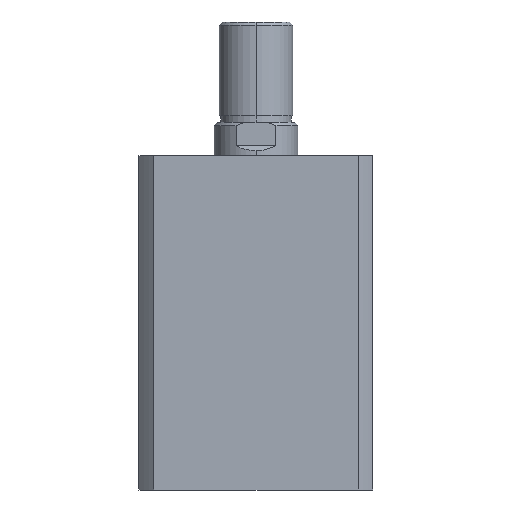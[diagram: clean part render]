
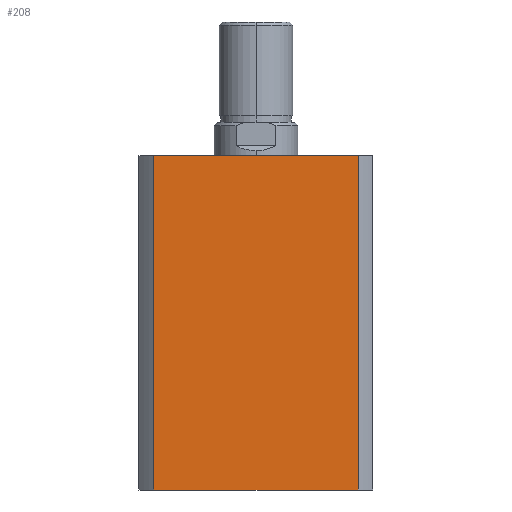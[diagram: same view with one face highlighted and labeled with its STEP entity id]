
A CAD part, left-side view. The second image highlights one B-rep face of the part: STEP entity #208.
In plain terms, the highlighted planar face has unit normal (-1, 0, 0).
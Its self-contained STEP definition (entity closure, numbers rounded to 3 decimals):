
#208 = ADVANCED_FACE ( 'NONE', ( #2718 ), #3232, .F. ) ;
#518 = CARTESIAN_POINT ( 'NONE',  ( -35., 0., 100. ) ) ;
#522 = DIRECTION ( 'NONE',  ( 0., 0., -1. ) ) ;
#523 = DIRECTION ( 'NONE',  ( 0., -1., 0. ) ) ;
#524 = CARTESIAN_POINT ( 'NONE',  ( -35., -30.615, 100. ) ) ;
#525 = CARTESIAN_POINT ( 'NONE',  ( -35., 30.615, 100. ) ) ;
#526 = DIRECTION ( 'NONE',  ( 0., 0., -1. ) ) ;
#867 = VERTEX_POINT ( 'NONE', #2209 ) ;
#942 = EDGE_LOOP ( 'NONE', ( #1652, #1681, #1667, #1663 ) ) ;
#997 = VERTEX_POINT ( 'NONE', #2248 ) ;
#1498 = VECTOR ( 'NONE', #1920, 1000. ) ;
#1499 = LINE ( 'NONE', #1925, #1498 ) ;
#1652 = ORIENTED_EDGE ( 'NONE', *, *, #4015, .T. ) ;
#1663 = ORIENTED_EDGE ( 'NONE', *, *, #3931, .T. ) ;
#1667 = ORIENTED_EDGE ( 'NONE', *, *, #3928, .F. ) ;
#1681 = ORIENTED_EDGE ( 'NONE', *, *, #3929, .F. ) ;
#1920 = DIRECTION ( 'NONE',  ( 0., -1., 0. ) ) ;
#1925 = CARTESIAN_POINT ( 'NONE',  ( -35., 0., 0. ) ) ;
#2209 = CARTESIAN_POINT ( 'NONE',  ( -35., 30.615, 0. ) ) ;
#2248 = CARTESIAN_POINT ( 'NONE',  ( -35., -30.615, 0. ) ) ;
#2492 = VERTEX_POINT ( 'NONE', #4081 ) ;
#2494 = VERTEX_POINT ( 'NONE', #4083 ) ;
#2718 = FACE_OUTER_BOUND ( 'NONE', #942, .T. ) ;
#2973 = AXIS2_PLACEMENT_3D ( 'NONE', #3112, #3261, #3298 ) ;
#3112 = CARTESIAN_POINT ( 'NONE',  ( -35., 0., 100. ) ) ;
#3232 = PLANE ( 'NONE',  #2973 ) ;
#3261 = DIRECTION ( 'NONE',  ( 1., 0., 0. ) ) ;
#3298 = DIRECTION ( 'NONE',  ( 0., 1., 0. ) ) ;
#3928 = EDGE_CURVE ( 'NONE', #2494, #2492, #4257, .T. ) ;
#3929 = EDGE_CURVE ( 'NONE', #2492, #997, #4252, .T. ) ;
#3931 = EDGE_CURVE ( 'NONE', #2494, #867, #4248, .T. ) ;
#4015 = EDGE_CURVE ( 'NONE', #867, #997, #1499, .T. ) ;
#4081 = CARTESIAN_POINT ( 'NONE',  ( -35., -30.615, 100. ) ) ;
#4083 = CARTESIAN_POINT ( 'NONE',  ( -35., 30.615, 100. ) ) ;
#4246 = VECTOR ( 'NONE', #522, 1000. ) ;
#4248 = LINE ( 'NONE', #525, #4246 ) ;
#4249 = VECTOR ( 'NONE', #526, 1000. ) ;
#4251 = VECTOR ( 'NONE', #523, 1000. ) ;
#4252 = LINE ( 'NONE', #524, #4249 ) ;
#4257 = LINE ( 'NONE', #518, #4251 ) ;
